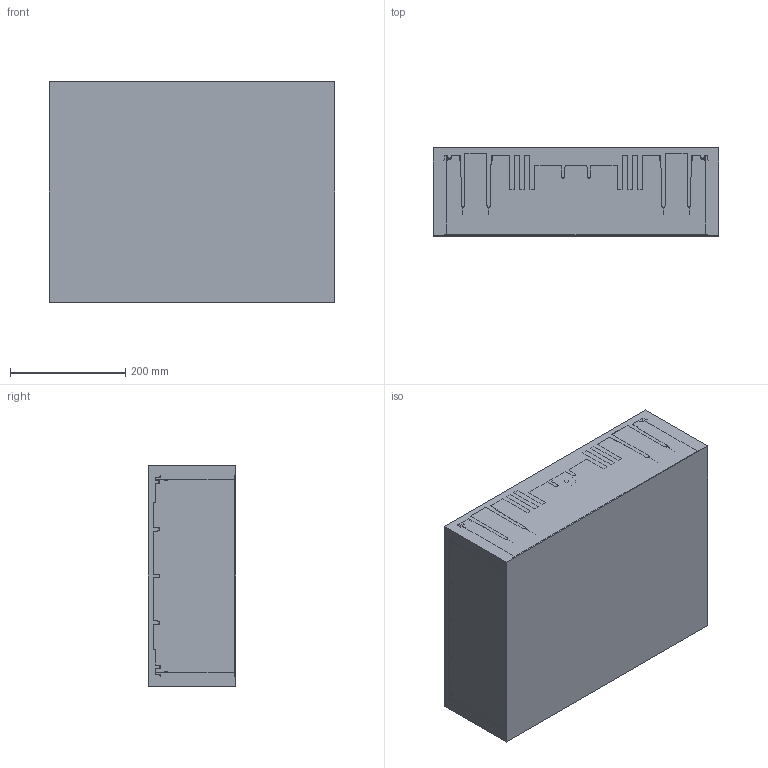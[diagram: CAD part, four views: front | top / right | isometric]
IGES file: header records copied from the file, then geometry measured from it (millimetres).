
Start section: SolidWorks IGES file using analytic representation for surfaces
Global section: file name: C:\temp\EU files dimensions 12-14-15\EU case files in pdf and DXF format\1550 Peli Case bottom.IGS; native system: SolidWorks 2014; preprocessor: SolidWorks 2014; author: mhakami; date: 160112.101143; units: inch
Bounding box: 494.56 x 152.4 x 381.53 mm (x, y, z)
Surface area: 1342219.3 mm2 (no closed solid volume)
Topology: 0 solids, 0 shells, 642 faces, 7619 edges, 7615 vertices
Faces by surface type: bspline 384, revolution 258
